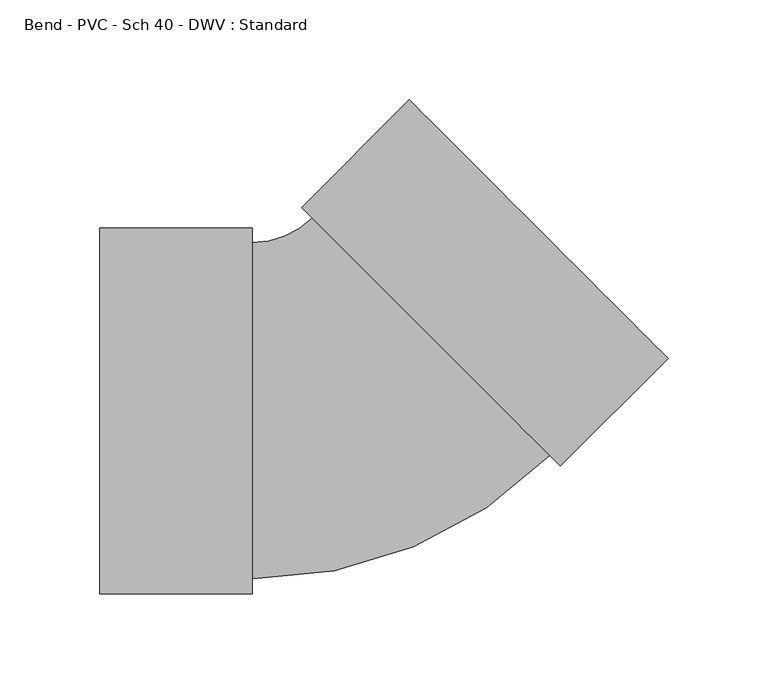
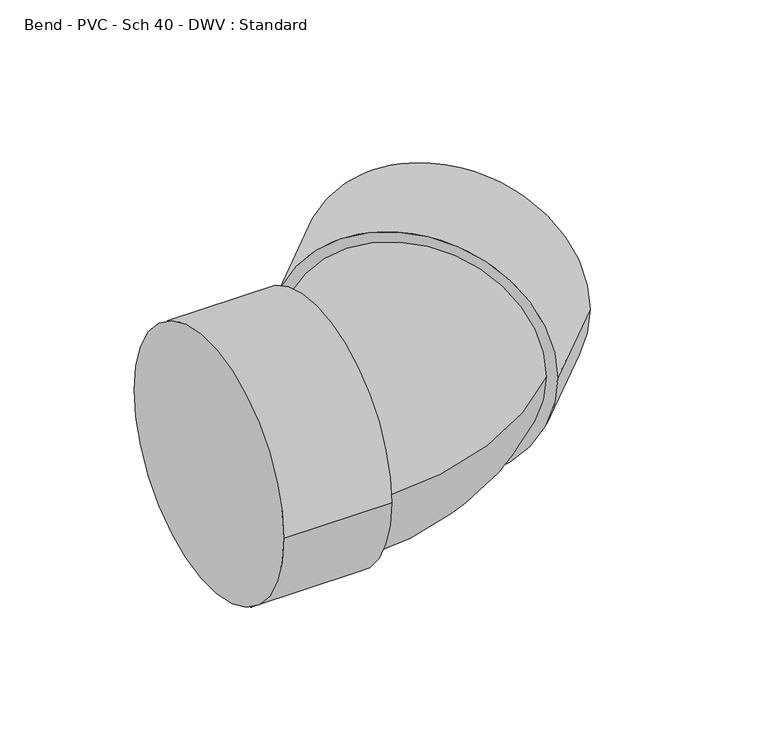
"""IFC4 building model written with IfcOpenShell, lengths in millimetres: pipe fitting geometry, Bend - PVC - Sch 40 - DWV : Standard."""

from ifc_helpers import new_model, si_unit, point, frame, origin, place, context, project, spatial, circle_curve, ellipse_curve, trimmed, source, transform, mapped, element, save
from ifc_brep_helpers import plane_surface, cylinder_surface, revolved_surface, advanced_brep


def bend_pvc_sch_40_dwv_standard_ce2fe309(model_context):
    return source(origin(), model_context, "Body", "AdvancedBrep", [
        advanced_brep(
        [(-128.6002, -91.5543, 0.0), (-128.6002, 91.5543, 0.0), (-52.4002, -91.5543, 0.0), (-52.4002, 91.5543, 0.0), (-52.4002, -84.1375, 0.0), (-52.4002, 84.1375, 0.0), (-22.4373253, 96.547741, 0.0), (96.5457259, -22.4459948, 0.0), (101.78996, -27.6906998, 0.0), (-27.6815594, 101.7924461, 0.0), (155.6739158, 26.1884177, 0.0), (26.2023965, 155.6715636, 0.0)],
        [
            (0, 1, circle_curve(frame((-128.6002, 0.0, 0.0), z_axis=(-1.0, 0.0, 0.0), x_axis=(0.0, 1.0, 0.0)), 91.5543)),
            (1, 0, circle_curve(frame((-128.6002, 0.0, 0.0), z_axis=(-1.0, 0.0, 0.0), x_axis=(0.0, 1.0, 0.0)), 91.5543)),
            (2, 3, circle_curve(frame((-52.4002, 0.0, 0.0), z_axis=(1.0, 0.0, 0.0), x_axis=(0.0, 1.0, 0.0)), 91.5543)),
            (3, 2, circle_curve(frame((-52.4002, 0.0, 0.0), z_axis=(1.0, 0.0, 0.0), x_axis=(0.0, 1.0, 0.0)), 91.5543)),
            (4, 5, circle_curve(frame((-52.4002, 0.0, 0.0), z_axis=(-1.0, 0.0, 0.0), x_axis=(0.0, 1.0, 0.0)), 84.1375)),
            (5, 4, circle_curve(frame((-52.4002, 0.0, 0.0), z_axis=(-1.0, 0.0, 0.0), x_axis=(0.0, 1.0, 0.0)), 84.1375)),
            (0, 2),
            (3, 1),
            (6, 5, circle_curve(frame((-52.4002, 126.5133064, 0.0), z_axis=(0.0, 0.0, -1.0), x_axis=(0.0, -1.0, 0.0)), 42.3758064)),
            (4, 7, circle_curve(frame((-52.4002, 126.5133064, 0.0), z_axis=(0.0, 0.0, 1.0), x_axis=(0.0, -1.0, 0.0)), 210.6508064)),
            (7, 6, circle_curve(frame((37.0542003, 37.0508731, 0.0), z_axis=(-0.7071385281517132, -0.7070750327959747, 0.0), x_axis=(-0.7070750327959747, 0.7071385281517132, 0.0)), 84.1375)),
            (6, 7, circle_curve(frame((37.0542003, 37.0508731, 0.0), z_axis=(-0.7071385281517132, -0.7070750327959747, 0.0), x_axis=(-0.7070750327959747, 0.7071385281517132, 0.0)), 84.1375)),
            (8, 9, circle_curve(frame((37.0542003, 37.0508731, 0.0), z_axis=(-0.7071385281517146, -0.7070750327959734, 0.0), x_axis=(-0.7070750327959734, 0.7071385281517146, 0.0)), 91.5543)),
            (9, 8, circle_curve(frame((37.0542003, 37.0508731, 0.0), z_axis=(-0.7071385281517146, -0.7070750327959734, 0.0), x_axis=(-0.7070750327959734, 0.7071385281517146, 0.0)), 91.5543)),
            (10, 11, circle_curve(frame((90.9381561, 90.9299906, 0.0), z_axis=(0.7071385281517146, 0.7070750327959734, 0.0), x_axis=(-0.7070750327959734, 0.7071385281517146, 0.0)), 91.5543)),
            (11, 10, circle_curve(frame((90.9381561, 90.9299906, 0.0), z_axis=(0.7071385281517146, 0.7070750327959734, 0.0), x_axis=(-0.7070750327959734, 0.7071385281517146, 0.0)), 91.5543)),
            (8, 10),
            (11, 9),
        ],
        [
            plane_surface(frame((-128.6002, 0.0, 0.0), z_axis=(-1.0, 0.0, 0.0), x_axis=(0.0, 0.0, 1.0))),
            plane_surface(frame((-52.4002, 0.0, 0.0), z_axis=(1.0, 0.0, 0.0), x_axis=(0.0, 0.0, 1.0))),
            cylinder_surface(frame((-128.6002, 0.0, 0.0), z_axis=(-1.0, 0.0, 0.0), x_axis=(0.0, 1.0, 0.0)), 91.5543),
            revolved_surface(trimmed(ellipse_curve(frame((-52.4002, 0.0, 0.0), z_axis=(-1.0, 0.0, 0.0), x_axis=(0.0, 1.0, 0.0)), 84.1375, 84.1375), [point((-52.4002, -84.1375, 0.0))], [point((-52.4002, 84.1375, 0.0))], True, "CARTESIAN"), (-52.4002, 126.5133064, 0.0), (0.0, 0.0, 1.0)),
            revolved_surface(trimmed(ellipse_curve(frame((-52.4002, 0.0, 0.0), z_axis=(-1.0, 0.0, 0.0), x_axis=(0.0, 1.0, 0.0)), 84.1375, 84.1375), [point((-52.4002, 84.1375, 0.0))], [point((-52.4002, -84.1375, 0.0))], True, "CARTESIAN"), (-52.4002, 126.5133064, 0.0), (0.0, 0.0, 1.0)),
            plane_surface(frame((37.0542003, 37.0508731, 0.0), z_axis=(-0.7071385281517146, -0.7070750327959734, 0.0), x_axis=(0.0, 0.0, 1.0))),
            plane_surface(frame((90.9381561, 90.9299906, 0.0), z_axis=(0.7071385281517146, 0.7070750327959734, 0.0), x_axis=(0.0, 0.0, 1.0))),
            cylinder_surface(frame((37.0542003, 37.0508731, 0.0), z_axis=(-0.7071385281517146, -0.7070750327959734, 0.0), x_axis=(-0.7070750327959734, 0.7071385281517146, 0.0)), 91.5543),
        ],
        [
            (0, [[1, 2]]),
            (1, [[3, 4], [5, 6]]),
            (2, [[-1, 7, -4, 8]]),
            (2, [[-2, -8, -3, -7]]),
            (3, [[9, -5, 10, 11]]),
            (4, [[-9, 12, -10, -6]]),
            (5, [[13, 14], [-11, -12]]),
            (6, [[15, 16]]),
            (7, [[-13, 17, -16, 18]]),
            (7, [[-14, -18, -15, -17]]),
        ],
    ),
    ])


if __name__ == "__main__":
    model = new_model("IFC4")
    model_context = context("Model", 3, world=origin())
    ifc_project = project(units=[si_unit("LENGTHUNIT", "METRE", prefix="MILLI")], contexts=[model_context])
    site = spatial("IfcSite", under=ifc_project)
    building = spatial("IfcBuilding", under=site)
    placement = place(None, origin())
    bend_pvc_sch_40_dwv_standard_shape = bend_pvc_sch_40_dwv_standard_ce2fe309(model_context)
    element("IfcPipeFitting", 1, ObjectType="Bend - PVC - Sch 40 - DWV : Standard", at=placement, inside=building, context=model_context, shape_type="MappedRepresentation", body=[
        mapped(bend_pvc_sch_40_dwv_standard_shape, transform((0.0, 0.0, 0.0), x_axis=(1.0, 0.0, 0.0), y_axis=(0.0, 1.0, 0.0), z_axis=(0.0, 0.0, 1.0))),
    ])
    save(model, "model.ifc")
